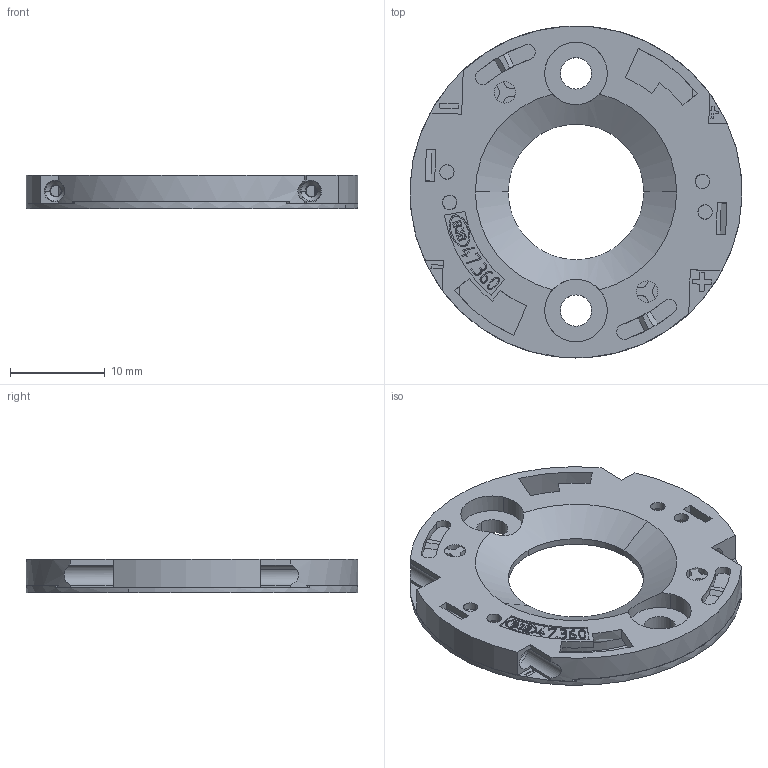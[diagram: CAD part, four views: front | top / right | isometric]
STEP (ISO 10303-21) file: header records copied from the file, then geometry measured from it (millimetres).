
FILE_DESCRIPTION(('CAx-IF Rec.Pracs.---Model Styling and Organization---1.2---2011-12-15','CAx-IF Rec.Pracs.---Geometric and Assembly Validation Properties---4.1---2014-06-16','CAx-IF Rec.Pracs.---PMI Polyline Presentation---2.0---2013-05-24'),'2;1');
FILE_NAME('01ZYR1SY04.stp','2018-08-03T09:38:51+02:00',(''),(''),'STEP Interface 4.1 Sp1 by CT CoreTechnologie','3D_Evolution4.1 Sp1 by CT CoreTechnologie','');
FILE_SCHEMA(('AUTOMOTIVE_DESIGN { 1 0 10303 214 1 1 1 1 }'));
Length unit declared in the file: millimetre
Products named in the file (3): 01Z-R1S-04; 01Z-R1Q-04; 01Z-R1R-03
Assembly tree (2 placements, depth 2):
  01Z-R1S-04
    01Z-R1Q-04
    01Z-R1R-03
Bounding box: 34.98 x 35 x 3.5 mm (x, y, z)
Volume: 1649.7 mm3; surface area: 4035.6 mm2
Topology: 4 solids, 4 shells, 559 faces, 1570 edges, 1053 vertices
Faces by surface type: plane 353, cylinder 138, bspline 68
Entity records: 24133 total; most frequent: CARTESIAN_POINT 4979, ORIENTED_EDGE 3140, DIRECTION 2904, EDGE_CURVE 1570, VECTOR 1104, LINE 1104, VERTEX_POINT 1053, AXIS2_PLACEMENT_3D 900
